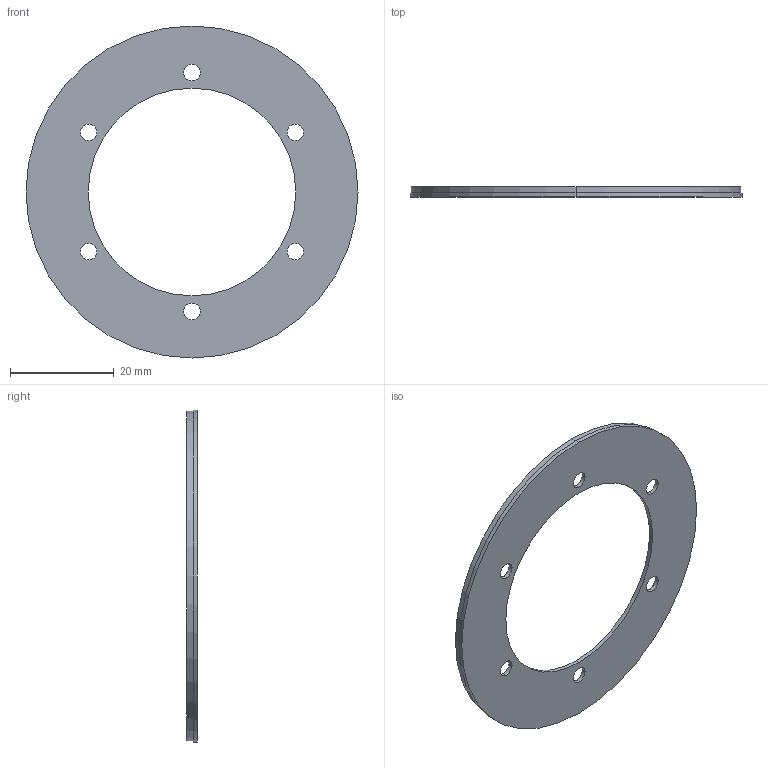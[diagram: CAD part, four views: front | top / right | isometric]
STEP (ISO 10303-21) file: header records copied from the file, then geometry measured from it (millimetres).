
FILE_DESCRIPTION (( 'STEP AP214' ), '1' );
FILE_NAME ('IRR-080-A21_rev01.STEP', '2023-11-07T17:59:10', ( '' ), ( '' ), 'SwSTEP 2.0', 'SolidWorks 2021', '' );
FILE_SCHEMA (( 'AUTOMOTIVE_DESIGN' ));
Length unit declared in the file: millimetre
Products named in the file (1): IRR-080-A21_rev01
Bounding box: 64 x 2 x 64 mm (x, y, z)
Volume: 2732.3 mm3; surface area: 6575.5 mm2
Topology: 2 solids, 2 shells, 28 faces, 72 edges, 48 vertices
Faces by surface type: cylinder 20, plane 8
Entity records: 1261 total; most frequent: DIRECTION 172, CARTESIAN_POINT 149, ORIENTED_EDGE 144, EDGE_CURVE 72, AXIS2_PLACEMENT_3D 71, VERTEX_POINT 48, EDGE_LOOP 44, CIRCLE 42
